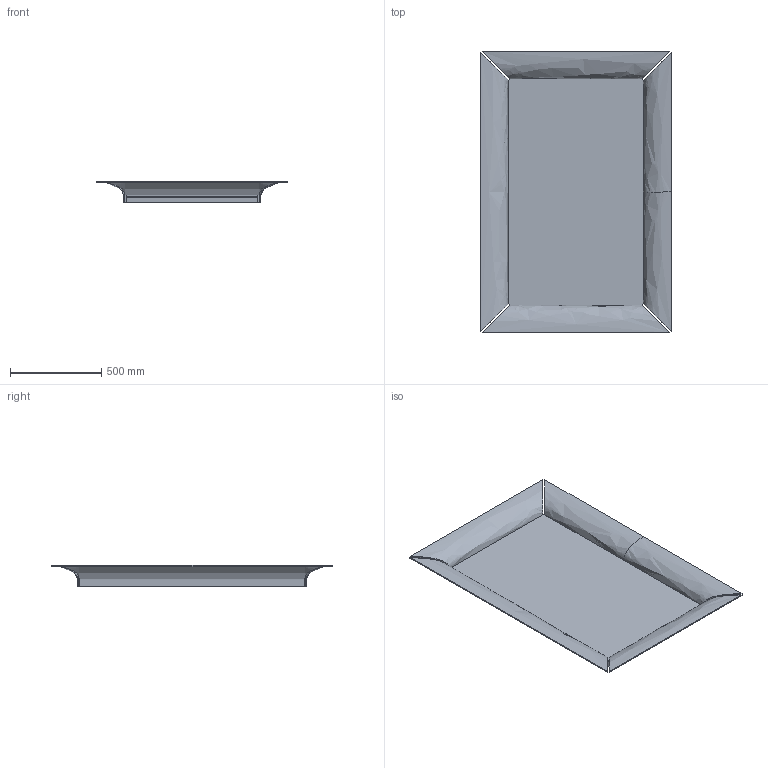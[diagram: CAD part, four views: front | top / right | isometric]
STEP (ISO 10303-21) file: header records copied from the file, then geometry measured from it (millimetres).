
FILE_DESCRIPTION(/* description */ (''),/* implementation_level */ '2;1');
FILE_NAME(/* name */ '612 - Caadre - 105x155',/* time_stamp */ '2010-11-02T14:21:09+01:00',/* author */ (''),/* organization */ (''),/* preprocessor_version */ 'ST-DEVELOPER v10',/* originating_system */ '',/* authorisation */ '');
FILE_SCHEMA (('CONFIG_CONTROL_DESIGN'));
Length unit declared in the file: centimetre
Products named in the file (1): 1
Bounding box: 1046 x 1546 x 119 mm (x, y, z)
Volume: 14769629.5 mm3; surface area: 4326050.4 mm2
Topology: 6 solids, 6 shells, 62 faces, 140 edges, 88 vertices
Faces by surface type: bspline 44, plane 18
Entity records: 3512 total; most frequent: CARTESIAN_POINT 2478, ORIENTED_EDGE 280, EDGE_CURVE 140, B_SPLINE_CURVE_WITH_KNOTS 140, VERTEX_POINT 88, ADVANCED_FACE 62, FACE_OUTER_BOUND 62, EDGE_LOOP 62
